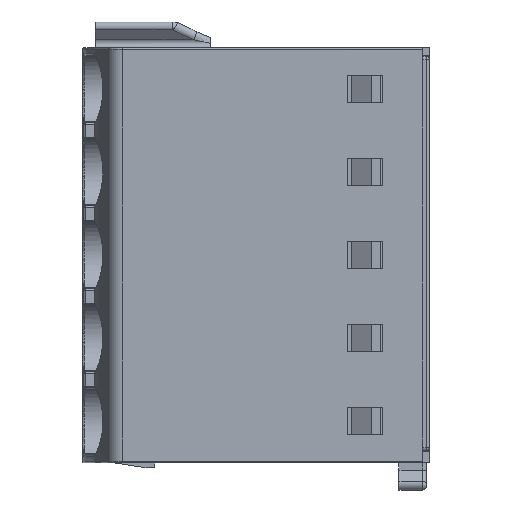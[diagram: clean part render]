
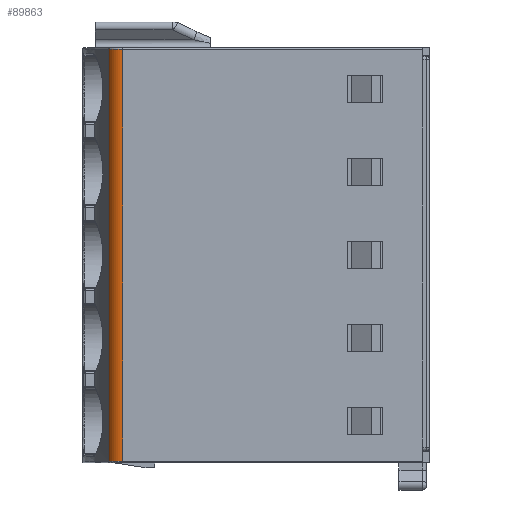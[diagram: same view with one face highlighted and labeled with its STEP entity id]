
A CAD part, left-side view. The second image highlights one B-rep face of the part: STEP entity #89863.
In plain terms, the highlighted cylindrical face has radius 1 mm (diameter 2 mm), a partial arc.
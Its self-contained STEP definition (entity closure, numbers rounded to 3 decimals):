
#15798=CARTESIAN_POINT('',(-1.3,16.736,-24.8));
#15799=DIRECTION('',(0.,0.,1.));
#15800=DIRECTION('',(-0.475,0.88,0.));
#15801=AXIS2_PLACEMENT_3D('',#15798,#15799,#15800);
#15808=DIRECTION('',(0.,0.,-1.));
#15809=VECTOR('',#15808,0.2);
#15810=CARTESIAN_POINT('',(-2.3,16.741,
-19.6));
#15811=LINE('',#15810,#15809);
#15812=DIRECTION('',(0.,0.,-1.));
#15813=VECTOR('',#15812,5.);
#15814=CARTESIAN_POINT('',(-2.3,16.741,
-19.8));
#15815=LINE('',#15814,#15813);
#15816=DIRECTION('',(0.,0.,1.));
#15817=VECTOR('',#15816,25.8);
#15818=CARTESIAN_POINT('',(-1.775,17.616,-24.8));
#15819=LINE('',#15818,#15817);
#15820=DIRECTION('',(0.,0.,-1.));
#15821=VECTOR('',#15820,5.);
#15822=CARTESIAN_POINT('',(-2.3,16.741,
1.));
#15823=LINE('',#15822,#15821);
#15824=DIRECTION('',(0.,0.,-1.));
#15825=VECTOR('',#15824,0.2);
#15826=CARTESIAN_POINT('',(-2.3,16.741,
-4.));
#15827=LINE('',#15826,#15825);
#15828=DIRECTION('',(0.,0.,-1.));
#15829=VECTOR('',#15828,5.);
#15830=CARTESIAN_POINT('',(-2.3,16.741,
-4.2));
#15831=LINE('',#15830,#15829);
#15832=DIRECTION('',(0.,0.,-1.));
#15833=VECTOR('',#15832,0.2);
#15834=CARTESIAN_POINT('',(-2.3,16.741,
-9.2));
#15835=LINE('',#15834,#15833);
#15836=DIRECTION('',(0.,0.,-1.));
#15837=VECTOR('',#15836,5.);
#15838=CARTESIAN_POINT('',(-2.3,16.741,
-9.4));
#15839=LINE('',#15838,#15837);
#15840=DIRECTION('',(0.,0.,-1.));
#15841=VECTOR('',#15840,0.2);
#15842=CARTESIAN_POINT('',(-2.3,16.741,
-14.4));
#15843=LINE('',#15842,#15841);
#15844=DIRECTION('',(0.,0.,-1.));
#15845=VECTOR('',#15844,5.);
#15846=CARTESIAN_POINT('',(-2.3,16.741,
-14.6));
#15847=LINE('',#15846,#15845);
#16093=CARTESIAN_POINT('',(-1.3,16.736,1.));
#16094=DIRECTION('',(0.,0.,-1.));
#16095=DIRECTION('',(-1.,0.005,0.));
#16096=AXIS2_PLACEMENT_3D('',#16093,#16094,#16095);
#55560=CARTESIAN_POINT('',(-2.3,16.741,
-19.8));
#55561=CARTESIAN_POINT('',(-2.3,16.741,
-24.8));
#55562=VERTEX_POINT('',#55560);
#55563=VERTEX_POINT('',#55561);
#55564=CARTESIAN_POINT('',(-2.3,16.741,
-19.6));
#55565=VERTEX_POINT('',#55564);
#55566=CARTESIAN_POINT('',(-2.3,16.741,
-14.6));
#55567=VERTEX_POINT('',#55566);
#55568=CARTESIAN_POINT('',(-2.3,16.741,
-14.4));
#55569=VERTEX_POINT('',#55568);
#55570=CARTESIAN_POINT('',(-2.3,16.741,
-9.4));
#55571=VERTEX_POINT('',#55570);
#55572=CARTESIAN_POINT('',(-2.3,16.741,
-9.2));
#55573=VERTEX_POINT('',#55572);
#55574=CARTESIAN_POINT('',(-2.3,16.741,
-4.2));
#55575=VERTEX_POINT('',#55574);
#55576=CARTESIAN_POINT('',(-2.3,16.741,
-4.));
#55577=VERTEX_POINT('',#55576);
#55578=CARTESIAN_POINT('',(-2.3,16.741,
1.));
#55579=VERTEX_POINT('',#55578);
#55640=CARTESIAN_POINT('',(-1.775,17.616,-24.8));
#55641=VERTEX_POINT('',#55640);
#55642=CARTESIAN_POINT('',(-1.775,17.616,1.));
#55643=VERTEX_POINT('',#55642);
#89834=CARTESIAN_POINT('',(-1.3,16.736,-14.7));
#89835=DIRECTION('',(0.,0.,1.));
#89836=DIRECTION('',(-1.,0.,0.));
#89837=AXIS2_PLACEMENT_3D('',#89834,#89835,#89836);
#89838=CYLINDRICAL_SURFACE('',#89837,1.);
#89840=ORIENTED_EDGE('',*,*,#89839,.T.);
#89842=ORIENTED_EDGE('',*,*,#89841,.T.);
#89843=ORIENTED_EDGE('',*,*,#89827,.F.);
#89844=ORIENTED_EDGE('',*,*,#83544,.T.);
#89846=ORIENTED_EDGE('',*,*,#89845,.F.);
#89848=ORIENTED_EDGE('',*,*,#89847,.T.);
#89850=ORIENTED_EDGE('',*,*,#89849,.T.);
#89852=ORIENTED_EDGE('',*,*,#89851,.T.);
#89854=ORIENTED_EDGE('',*,*,#89853,.T.);
#89856=ORIENTED_EDGE('',*,*,#89855,.T.);
#89858=ORIENTED_EDGE('',*,*,#89857,.T.);
#89860=ORIENTED_EDGE('',*,*,#89859,.T.);
#89861=EDGE_LOOP('',(#89840,#89842,#89843,#89844,#89846,#89848,#89850,#89852,
#89854,#89856,#89858,#89860));
#89862=FACE_OUTER_BOUND('',#89861,.F.);
#89863=ADVANCED_FACE('',(#89862),#89838,.T.);
#15802=CIRCLE('',#15801,1.);
#16097=CIRCLE('',#16096,1.);
#83544=EDGE_CURVE('',#55641,#55643,#15819,.T.);
#89827=EDGE_CURVE('',#55641,#55563,#15802,.T.);
#89839=EDGE_CURVE('',#55565,#55562,#15811,.T.);
#89841=EDGE_CURVE('',#55562,#55563,#15815,.T.);
#89845=EDGE_CURVE('',#55579,#55643,#16097,.T.);
#89847=EDGE_CURVE('',#55579,#55577,#15823,.T.);
#89849=EDGE_CURVE('',#55577,#55575,#15827,.T.);
#89851=EDGE_CURVE('',#55575,#55573,#15831,.T.);
#89853=EDGE_CURVE('',#55573,#55571,#15835,.T.);
#89855=EDGE_CURVE('',#55571,#55569,#15839,.T.);
#89857=EDGE_CURVE('',#55569,#55567,#15843,.T.);
#89859=EDGE_CURVE('',#55567,#55565,#15847,.T.);
